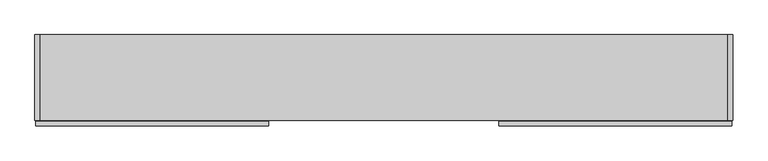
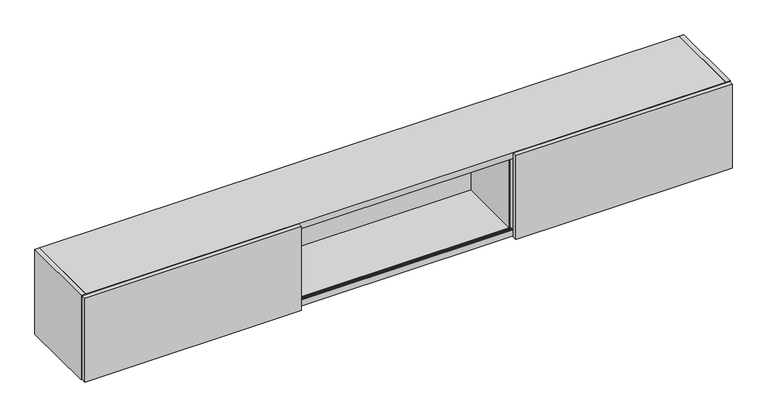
"""IFC4 building model written with IfcOpenShell, lengths in millimetres: furniture geometry, Geiger_GeigerOneCasegoods_OverheadStorageSlidingDoorFullCase : Vertical Veneer 108Wx 14.125Dx 14.875H."""

import ifcopenshell
import ifcopenshell.guid

model = None  # the IFC model being written
_history = None  # IfcOwnerHistory: only IFC2X3 demands one
_inside = {}  # id of a spatial element -> (the spatial element, [elements in it])
_under = {}  # id of a project, library or spatial element -> (it, [spatial elements below it])
_declared = {}  # id of a project -> (the project, [libraries it declares])
_typed = {}  # id of a type object -> (the type object, [elements of that type])
_made_of = {}  # id of a material, layer set ... -> (it, [elements and type objects made of it])


def new_model(schema):
    """Start an empty IFC model of exactly this schema.

    Asked for "IFC4X3", IfcOpenShell would pick the latest addendum, in which some entities
    have other attributes; the version numbers below select the first issue.
    IFC2X3 requires an IfcOwnerHistory on every rooted entity: one is made here for all.
    """
    global model, _history
    if schema == "IFC4X3":
        model = ifcopenshell.file(schema_version=(4, 3, 0, 0))
    else:
        model = ifcopenshell.file(schema=schema)
    _inside.clear()
    _under.clear()
    _declared.clear()
    _typed.clear()
    _made_of.clear()
    _history = None
    if model.schema == "IFC2X3":
        org = make("IfcOrganization", Name="unknown")
        user = make(
            "IfcPersonAndOrganization",
            ThePerson=make("IfcPerson", FamilyName="unknown"),
            TheOrganization=org,
        )
        app = make(
            "IfcApplication",
            ApplicationDeveloper=org,
            Version="unknown",
            ApplicationFullName="unknown",
            ApplicationIdentifier="unknown",
        )
        _history = make(
            "IfcOwnerHistory",
            OwningUser=user,
            OwningApplication=app,
            ChangeAction="ADDED",
            CreationDate=0,
        )
    return model


def make(cls, **values):
    """One entity of the class cls with the attributes given. An attribute that is None is left unset."""
    return model.create_entity(
        cls, **{name: value for name, value in values.items() if value is not None}
    )


def rooted(cls, **values):
    """An entity with a GlobalId (a new one), such as an element, a storey or a relation."""
    return make(cls, GlobalId=ifcopenshell.guid.new(), OwnerHistory=_history, **values)


def si_unit(unit_type, name, prefix=None):
    """IfcSIUnit, for example si_unit("LENGTHUNIT", "METRE", prefix="MILLI")."""
    return make("IfcSIUnit", UnitType=unit_type, Prefix=prefix, Name=name)


def assignment(units):
    """IfcUnitAssignment: the units of a project."""
    return None if units is None else make("IfcUnitAssignment", Units=units)


def point(xyz):
    """IfcCartesianPoint."""
    return None if xyz is None else make("IfcCartesianPoint", Coordinates=xyz)


def direction(xyz):
    """IfcDirection."""
    return None if xyz is None else make("IfcDirection", DirectionRatios=xyz)


def frame(location, z_axis=None, x_axis=None):
    """IfcAxis2Placement3D, a coordinate frame: its origin and axes. An axis left out is left unset."""
    return make(
        "IfcAxis2Placement3D",
        Location=point(location),
        Axis=direction(z_axis),
        RefDirection=direction(x_axis),
    )


def origin():
    """The frame at (0, 0, 0) with its axes left unset."""
    return frame((0.0, 0.0, 0.0))


def origin_with_axes():
    """The frame at (0, 0, 0) with the z axis (0, 0, 1) and the x axis (1, 0, 0) written out."""
    return frame((0.0, 0.0, 0.0), z_axis=(0.0, 0.0, 1.0), x_axis=(1.0, 0.0, 0.0))


def place(relative_to, where):
    """IfcLocalPlacement: puts the frame where relative to a parent placement (None: the world)."""
    return make(
        "IfcLocalPlacement", PlacementRelTo=relative_to, RelativePlacement=where
    )


def context(
    kind, dimensions, precision=None, world=None, true_north=None, identifier=None
):
    """IfcGeometricRepresentationContext, for example the 3D "Model" context."""
    return make(
        "IfcGeometricRepresentationContext",
        ContextIdentifier=identifier,
        ContextType=kind,
        CoordinateSpaceDimension=dimensions,
        Precision=precision,
        WorldCoordinateSystem=world,
        TrueNorth=true_north,
    )


def project(units=None, contexts=None):
    """IfcProject with its units and contexts."""
    return rooted(
        "IfcProject",
        Name="project",
        RepresentationContexts=contexts,
        UnitsInContext=assignment(units),
    )


def spatial(cls, under=None, at=None, **own):
    """A site, building, storey or space (cls), placed at a placement, below another one or the project."""
    s = rooted(cls, ObjectPlacement=at, **own)
    if under is not None:
        _under.setdefault(under.id(), (under, []))[1].append(s)
    return s


def polyline(points):
    """IfcPolyline through the points."""
    return make("IfcPolyline", Points=[point(p) for p in points])


def outline(outer, holes=None, kind="AREA"):
    """IfcArbitraryClosedProfileDef: a profile drawn as a closed curve; with holes, ...WithVoids."""
    if holes is None:
        return make("IfcArbitraryClosedProfileDef", ProfileType=kind, OuterCurve=outer)
    return make(
        "IfcArbitraryProfileDefWithVoids",
        ProfileType=kind,
        OuterCurve=outer,
        InnerCurves=holes,
    )


def extrude(swept, where, along, depth):
    """IfcExtrudedAreaSolid: the profile swept, set in the frame where, extruded along a direction by depth."""
    return make(
        "IfcExtrudedAreaSolid",
        SweptArea=swept,
        Position=where,
        ExtrudedDirection=direction(along),
        Depth=depth,
    )


def shape(context_of_items, identifier, shape_type, items):
    """IfcShapeRepresentation: the items that make up one representation, for example the "Body"."""
    return make(
        "IfcShapeRepresentation",
        ContextOfItems=context_of_items,
        RepresentationIdentifier=identifier,
        RepresentationType=shape_type,
        Items=items,
    )


def source(mapping_origin, context_of_items, identifier, shape_type, items):
    """IfcRepresentationMap: a shape defined once, which mapped items show again and again."""
    return make(
        "IfcRepresentationMap",
        MappingOrigin=mapping_origin,
        MappedRepresentation=shape(context_of_items, identifier, shape_type, items),
    )


def transform(
    local_origin,
    x_axis=None,
    y_axis=None,
    z_axis=None,
    scale=None,
    scale2=None,
    scale3=None,
    uniform=True,
):
    """IfcCartesianTransformationOperator3D, or its non-uniform kind. x_axis, y_axis, z_axis: its Axis1, 2, 3."""
    if uniform:
        return make(
            "IfcCartesianTransformationOperator3D",
            Axis1=direction(x_axis),
            Axis2=direction(y_axis),
            LocalOrigin=point(local_origin),
            Scale=scale,
            Axis3=direction(z_axis),
        )
    return make(
        "IfcCartesianTransformationOperator3DnonUniform",
        Axis1=direction(x_axis),
        Axis2=direction(y_axis),
        LocalOrigin=point(local_origin),
        Scale=scale,
        Axis3=direction(z_axis),
        Scale2=scale2,
        Scale3=scale3,
    )


def mapped(mapping_source, mapping_target):
    """IfcMappedItem: shows the shape of a source again, moved by a transform."""
    return make(
        "IfcMappedItem", MappingSource=mapping_source, MappingTarget=mapping_target
    )


def made_of(thing, what):
    """Note that an element or type object is made of a material, layer set ...; save() writes the relation."""
    if what is not None:
        _made_of.setdefault(what.id(), (what, []))[1].append(thing)
    return thing


def element(
    cls,
    number,
    at=None,
    inside=None,
    cuts=None,
    type_object=None,
    material=None,
    context=None,
    identifier="Body",
    shape_type=None,
    held_by="IfcProductDefinitionShape",
    body=None,
    shapes=None,
    **own,
):
    """One element of the class cls, such as IfcWall. Its Tag is "e" and its number.

    at: its placement. inside: the storey or other place that contains it. cuts: it is an
    opening in that element (IfcRelVoidsElement). A single representation is given by context,
    identifier, shape_type and body (its items); several are given by shapes. held_by: the class
    of the entity that holds the representations. save() writes the other relations.
    """
    e = rooted(cls, Tag="e%d" % number, ObjectPlacement=at, **own)
    if body is not None:
        shapes = [shape(context, identifier, shape_type, body)]
    if shapes is not None:
        e.Representation = make(held_by, Representations=shapes)
    if inside is not None:
        _inside.setdefault(inside.id(), (inside, []))[1].append(e)
    if cuts is not None:
        rooted(
            "IfcRelVoidsElement", RelatingBuildingElement=cuts, RelatedOpeningElement=e
        )
    if type_object is not None:
        _typed.setdefault(type_object.id(), (type_object, []))[1].append(e)
    return made_of(e, material)


def aggregate(whole, parts):
    """IfcRelAggregates: a whole, such as a stair, and the parts it consists of."""
    return rooted("IfcRelAggregates", RelatingObject=whole, RelatedObjects=parts)


def save(model, path):
    """Write the relations noted so far, then the file.

    IfcRelAggregates (storeys below a building ...), IfcRelContainedInSpatialStructure (elements
    in a storey), IfcRelDefinesByType, IfcRelAssociatesMaterial and IfcRelDeclares: one each for
    every whole, place, type object, material and project.
    """
    for whole, parts in _under.values():
        aggregate(whole, parts)
    for where, things in _inside.values():
        rooted(
            "IfcRelContainedInSpatialStructure",
            RelatedElements=things,
            RelatingStructure=where,
        )
    for kind, things in _typed.values():
        rooted("IfcRelDefinesByType", RelatedObjects=things, RelatingType=kind)
    for what, things in _made_of.values():
        rooted("IfcRelAssociatesMaterial", RelatedObjects=things, RelatingMaterial=what)
    for by, libraries in _declared.values():
        rooted("IfcRelDeclares", RelatingContext=by, RelatedDefinitions=libraries)
    model.write(path)


def furniture_4df2ae18(model_context):
    return source(origin(), model_context, "Body", "SweptSolid", [
        extrude(outline(polyline([(2724.2, -337.7), (2724.2, 0.0), (2743.2, 0.0), (2743.2, -337.7), (2724.2, -337.7)])), origin_with_axes(), (0.0, 0.0, 1.0), 379.0),
        extrude(outline(polyline([(19.0, 0.0), (19.0, -337.7), (0.0, -337.7), (0.0, 0.0), (19.0, 0.0)])), origin_with_axes(), (0.0, 0.0, 1.0), 379.0),
        extrude(outline(polyline([(19.0, -38.4930064), (19.0, -32.4930064), (2724.2, -32.4930064), (2724.2, -38.4930064), (19.0, -38.4930064)])), frame((0.0, 0.0, 32.0), z_axis=(0.0, 0.0, 1.0), x_axis=(1.0, 0.0, 0.0)), (0.0, 0.0, 1.0), 321.0),
        extrude(outline(polyline([(-18.9930064, 32.0), (-18.9930064, 6.0), (-337.7, 6.0), (-337.7, 32.0), (-334.1019, 32.0), (-334.1019, 31.0098), (-330.9777, 31.0098), (-330.9777, 24.99), (-323.2269, 24.99), (-323.2269, 31.0098), (-320.1019, 31.0098), (-320.1019, 32.0), (-18.9930064, 32.0)])), frame((19.0, 0.0, 0.0), z_axis=(1.0, 0.0, 0.0), x_axis=(0.0, 1.0, 0.0)), (0.0, 0.0, 1.0), 2705.2),
        extrude(outline(polyline([(0.0, 379.0), (0.0, 353.0), (-320.1019, 353.0), (-320.1019, 353.9902), (-323.2269, 353.9902), (-323.2269, 360.01), (-330.9777, 360.01), (-330.9777, 353.9902), (-334.1019, 353.9902), (-334.1019, 353.0), (-337.7, 353.0), (-337.7, 379.0), (0.0, 379.0)])), frame((19.0, 0.0, 0.0), z_axis=(1.0, 0.0, 0.0), x_axis=(0.0, 1.0, 0.0)), (0.0, 0.0, 1.0), 2705.2),
        extrude(outline(polyline([(3.0, -340.7), (918.2, -340.7), (918.2, -359.7), (3.0, -359.7), (3.0, -340.7)])), frame((0.0, 0.0, 3.0), z_axis=(0.0, 0.0, 1.0), x_axis=(1.0, 0.0, 0.0)), (0.0, 0.0, 1.0), 374.825),
        extrude(outline(polyline([(1825.0028667, -340.7), (2740.2, -340.7), (2740.2, -359.7), (1825.0028667, -359.7), (1825.0028667, -340.7)])), frame((0.0, 0.0, 3.0), z_axis=(0.0, 0.0, 1.0), x_axis=(1.0, 0.0, 0.0)), (0.0, 0.0, 1.0), 374.825),
        extrude(outline(polyline([(1839.0362, -38.4930064), (1839.0362, -314.7), (1820.0362, -314.7), (1820.0362, -38.4930064), (1839.0362, -38.4930064)])), frame((0.0, 0.0, 32.0), z_axis=(0.0, 0.0, 1.0), x_axis=(1.0, 0.0, 0.0)), (0.0, 0.0, 1.0), 321.0),
        extrude(outline(polyline([(904.1666667, -314.7), (904.1666667, -38.4930064), (923.1666667, -38.4930064), (923.1666667, -314.7), (904.1666667, -314.7)])), frame((0.0, 0.0, 32.0), z_axis=(0.0, 0.0, 1.0), x_axis=(1.0, 0.0, 0.0)), (0.0, 0.0, 1.0), 321.0),
        extrude(outline(polyline([(0.0, 269.5), (-2.9930064, 269.5), (-18.9930064, 297.21), (-18.9930064, 352.5), (0.0, 352.5), (0.0, 269.5)])), frame((19.0, 0.0, 0.0), z_axis=(1.0, 0.0, 0.0), x_axis=(0.0, 1.0, 0.0)), (0.0, 0.0, 1.0), 2705.2),
        extrude(outline(polyline([(19.0, -18.9930064), (19.0, 0.0), (2724.2, 0.0), (2724.2, -18.9930064), (19.0, -18.9930064)])), frame((0.0, 0.0, 6.0), z_axis=(0.0, 0.0, 1.0), x_axis=(1.0, 0.0, 0.0)), (0.0, 0.0, 1.0), 102.5),
        extrude(outline(polyline([(-320.1019, 353.9902), (-320.1019, 352.9996), (-324.2213, 352.9996), (-324.2213, 358.994), (-329.9871, 358.994), (-329.9871, 352.9996), (-334.1019, 352.9996), (-334.1019, 353.9902), (-330.9777, 353.9902), (-330.9777, 360.01), (-323.2269, 360.01), (-323.2269, 353.9902), (-320.1019, 353.9902)])), frame((12.5, 0.0, 0.0), z_axis=(1.0, 0.0, 0.0), x_axis=(0.0, 1.0, 0.0)), (0.0, 0.0, 1.0), 2718.2),
        extrude(outline(polyline([(-320.1019, 31.0094), (-323.2269, 31.0094), (-323.2269, 24.9896), (-330.9777, 24.9896), (-330.9777, 31.0094), (-334.1019, 31.0094), (-334.1019, 32.0), (-329.9871, 32.0), (-329.9871, 26.0056), (-324.2213, 26.0056), (-324.2213, 32.0), (-320.1019, 32.0), (-320.1019, 31.0094)])), frame((12.5, 0.0, 0.0), z_axis=(1.0, 0.0, 0.0), x_axis=(0.0, 1.0, 0.0)), (0.0, 0.0, 1.0), 2718.2),
        extrude(outline(polyline([(1828.3028667, -314.9930064), (1828.3028667, -337.8930064), (1851.2028667, -337.8930064), (1851.2028667, -340.3930064), (1825.8028667, -340.3930064), (1825.8028667, -314.9930064), (1828.3028667, -314.9930064)])), frame((0.0, 0.0, 35.0), z_axis=(0.0, 0.0, 1.0), x_axis=(1.0, 0.0, 0.0)), (0.0, 0.0, 1.0), 315.0),
        extrude(outline(polyline([(914.9, -314.9930064), (917.4, -314.9930064), (917.4, -340.3930064), (892.0, -340.3930064), (892.0, -337.8930064), (914.9, -337.8930064), (914.9, -314.9930064)])), frame((0.0, 0.0, 35.0), z_axis=(0.0, 0.0, 1.0), x_axis=(1.0, 0.0, 0.0)), (0.0, 0.0, 1.0), 315.0),
    ])


if __name__ == "__main__":
    model = new_model("IFC4")
    model_context = context("Model", 3, world=origin())
    ifc_project = project(units=[si_unit("LENGTHUNIT", "METRE", prefix="MILLI")], contexts=[model_context])
    site = spatial("IfcSite", under=ifc_project)
    building = spatial("IfcBuilding", under=site)
    placement = place(None, origin())
    furniture_shape = furniture_4df2ae18(model_context)
    element("IfcFurniture", 1, ObjectType="Geiger_GeigerOneCasegoods_OverheadStorageSlidingDoorFullCase : Vertical Veneer 108Wx 14.125Dx 14.875H", at=placement, inside=building, context=model_context, shape_type="MappedRepresentation", body=[
        mapped(furniture_shape, transform((0.0, 0.0, 0.0), x_axis=(1.0, 0.0, 0.0), y_axis=(0.0, 1.0, 0.0), z_axis=(0.0, 0.0, 1.0))),
    ])
    save(model, "model.ifc")
